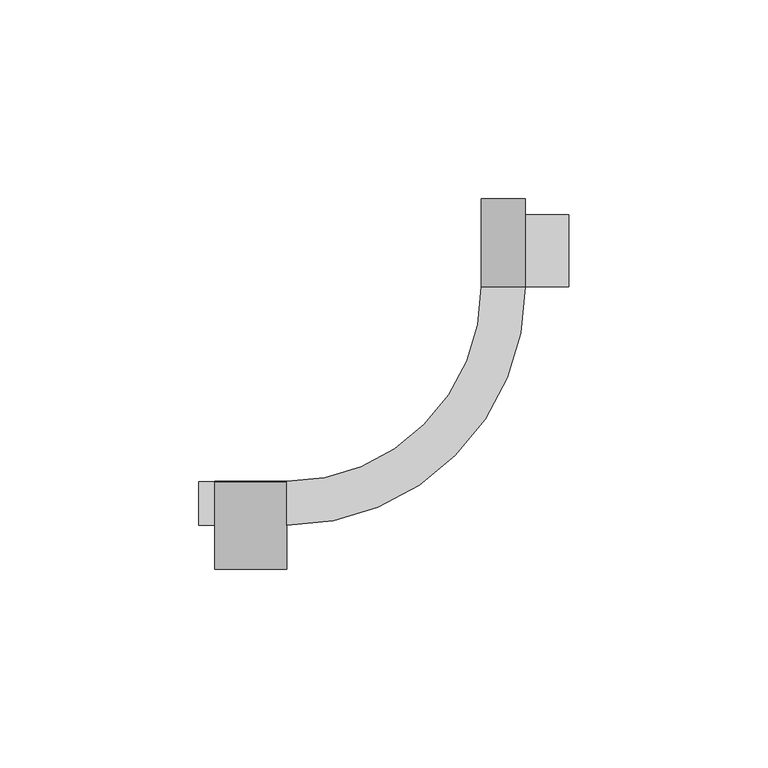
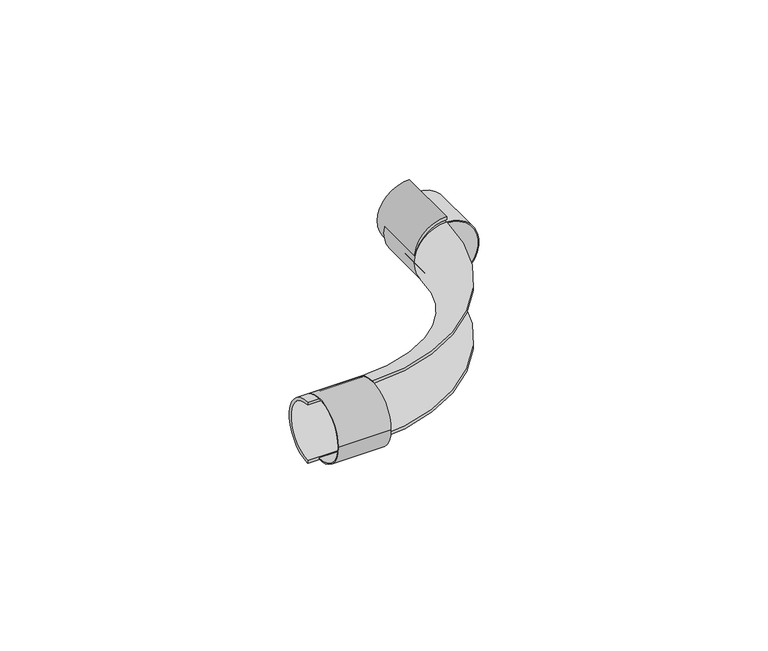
"""IFC4 building model written with IfcOpenShell, lengths in millimetres: pipe fitting geometry, REHAU_RAUTITAN_Pipe bend former sanitary : REHAU_RAUTITAN_Pipe bend former sanitary."""

from ifc_helpers import new_model, si_unit, point, frame, frame_2d, origin, origin_2d, place, context, project, spatial, polyline, circle_curve, ellipse_curve, trimmed, segment, composite_curve, outline, extrude, source, transform, mapped, element, save
from ifc_brep_helpers import plane_surface, cylinder_surface, revolved_surface, advanced_brep


def pipe_fitting_9e2fe441(model_context):
    return source(origin(), model_context, "Body", "SolidModel", [
        advanced_brep(
        [(-60.0, 0.0, 11.0), (-60.0, 0.0, -11.0), (-60.0, 0.0, -10.0), (-60.0, 0.0, 10.0), (0.0, 60.0, 11.0), (0.0, 60.0, 10.0), (0.0, 60.0, -10.0), (0.0, 60.0, -11.0)],
        [
            (0, 1, circle_curve(frame((-60.0, 0.0, 0.0), z_axis=(-1.0, 0.0, 0.0), x_axis=(0.0, 1.0, 0.0)), 11.0)),
            (1, 2),
            (2, 3, circle_curve(frame((-60.0, 0.0, 0.0), z_axis=(1.0, 0.0, 0.0), x_axis=(0.0, 1.0, 0.0)), 10.0)),
            (3, 0),
            (4, 5),
            (5, 6, circle_curve(frame((0.0, 60.0, 0.0), z_axis=(0.0, -1.0, 0.0), x_axis=(-1.0, 0.0, 0.0)), 10.0)),
            (6, 7),
            (7, 4, circle_curve(frame((0.0, 60.0, 0.0), z_axis=(0.0, 1.0, 0.0), x_axis=(-1.0, 0.0, 0.0)), 11.0)),
            (4, 0, circle_curve(frame((-60.0, 60.0, 11.0), z_axis=(0.0, 0.0, -1.0), x_axis=(0.0, -1.0, 0.0)), 60.0)),
            (3, 5, circle_curve(frame((-60.0, 60.0, 10.0), z_axis=(0.0, 0.0, 1.0), x_axis=(0.0, -1.0, 0.0)), 60.0)),
            (6, 2, circle_curve(frame((-60.0, 60.0, -10.0), z_axis=(0.0, 0.0, -1.0), x_axis=(0.0, -1.0, 0.0)), 60.0)),
            (1, 7, circle_curve(frame((-60.0, 60.0, -11.0), z_axis=(0.0, 0.0, 1.0), x_axis=(0.0, -1.0, 0.0)), 60.0)),
        ],
        [
            plane_surface(frame((-60.0, 0.0, 0.0), z_axis=(-1.0, 0.0, 0.0), x_axis=(0.0, 0.0, 1.0))),
            plane_surface(frame((0.0, 60.0, 0.0), z_axis=(0.0, 1.0, 0.0), x_axis=(0.0, 0.0, 1.0))),
            cylinder_surface(frame((-60.0, 60.0, 0.0), z_axis=(0.0, 0.0, 1.0), x_axis=(0.0, -1.0, 0.0)), 60.0),
            revolved_surface(trimmed(ellipse_curve(frame((-60.0, 0.0, 0.0), z_axis=(-1.0, 0.0, 0.0), x_axis=(0.0, 1.0, 0.0)), 11.0, 11.0), [point((-60.0, 0.0, 11.0))], [point((-60.0, 0.0, -11.0))], True, "CARTESIAN"), (-60.0, 60.0, 0.0), (0.0, 0.0, 1.0)),
            revolved_surface(trimmed(ellipse_curve(frame((-60.0, 0.0, 0.0), z_axis=(1.0, 0.0, 0.0), x_axis=(0.0, 1.0, 0.0)), 10.0, 10.0), [point((-60.0, 0.0, -10.0))], [point((-60.0, 0.0, 10.0))], True, "CARTESIAN"), (-60.0, 60.0, 0.0), (0.0, 0.0, 1.0)),
        ],
        [
            (0, [[1, 2, 3, 4]]),
            (1, [[5, 6, 7, 8]]),
            (2, [[9, -4, 10, -5]]),
            (2, [[11, -2, 12, -7]]),
            (3, [[-12, -1, -9, -8]]),
            (4, [[-10, -3, -11, -6]]),
        ],
    ),
        extrude(outline(composite_curve([segment(trimmed(circle_curve(origin_2d(), 11.0), [point((11.0, 0.0))], [point((-11.0, 0.0))], False, "CARTESIAN"), True, "CONTINUOUS"), segment(trimmed(circle_curve(origin_2d(), 11.0), [point((-11.0, 0.0))], [point((11.0, 0.0))], False, "CARTESIAN"), True, "CONTINUOUS")], self_intersect=False), holes=[composite_curve([segment(trimmed(circle_curve(origin_2d(), 10.65), [point((10.65, 0.0))], [point((-10.65, 0.0))], True, "CARTESIAN"), True, "CONTINUOUS"), segment(trimmed(circle_curve(origin_2d(), 10.65), [point((-10.65, 0.0))], [point((10.65, 0.0))], True, "CARTESIAN"), True, "CONTINUOUS")], self_intersect=False)]), frame((-78.0, 0.0, 0.0), z_axis=(1.0, 0.0, 0.0), x_axis=(0.0, 1.0, 0.0)), (0.0, 0.0, 1.0), 18.0),
        extrude(outline(composite_curve([segment(trimmed(circle_curve(origin_2d(), 11.0), [point((-11.0, 0.0))], [point((11.0, 0.0))], False, "CARTESIAN"), True, "CONTINUOUS"), segment(trimmed(circle_curve(origin_2d(), 11.0), [point((11.0, 0.0))], [point((-11.0, 0.0))], False, "CARTESIAN"), True, "CONTINUOUS")], self_intersect=False), holes=[composite_curve([segment(trimmed(circle_curve(origin_2d(), 10.65), [point((-10.65, 0.0))], [point((10.65, 0.0))], True, "CARTESIAN"), True, "CONTINUOUS"), segment(trimmed(circle_curve(origin_2d(), 10.65), [point((10.65, 0.0))], [point((-10.65, 0.0))], True, "CARTESIAN"), True, "CONTINUOUS")], self_intersect=False)]), frame((0.0, 60.0, 0.0), z_axis=(0.0, 1.0, 0.0), x_axis=(0.0, 0.0, 1.0)), (0.0, 0.0, 1.0), 18.0),
        extrude(outline(composite_curve([segment(polyline([(0.0, 10.0), (0.0, 11.0)]), True, "CONTINUOUS"), segment(trimmed(circle_curve(origin_2d(), 11.0), [point((0.0, 11.0))], [point((0.0, -11.0))], False, "CARTESIAN"), True, "CONTINUOUS"), segment(polyline([(0.0, -11.0), (0.0, -10.0)]), True, "CONTINUOUS"), segment(trimmed(circle_curve(origin_2d(), 10.0), [point((0.0, -10.0))], [point((0.0, 10.0))], True, "CARTESIAN"), True, "CONTINUOUS")], self_intersect=False)), frame((-82.0, 0.0, 0.0), z_axis=(1.0, 0.0, 0.0), x_axis=(0.0, 1.0, 0.0)), (0.0, 0.0, 1.0), 22.0),
        extrude(outline(composite_curve([segment(polyline([(12.0015807, 0.0), (13.0015807, 0.0)]), True, "CONTINUOUS"), segment(trimmed(circle_curve(frame_2d((2.0015807, 0.0)), 11.0), [point((13.0015807, 0.0))], [point((-8.9984193, 0.0))], False, "CARTESIAN"), True, "CONTINUOUS"), segment(polyline([(-8.9984193, 0.0), (-7.9984193, 0.0)]), True, "CONTINUOUS"), segment(trimmed(circle_curve(frame_2d((2.0015807, 0.0)), 10.0), [point((-7.9984193, 0.0))], [point((12.0015807, 0.0))], True, "CARTESIAN"), True, "CONTINUOUS")], self_intersect=False)), frame((0.0, 60.0, 0.0), z_axis=(0.0, 1.0, 0.0), x_axis=(0.0, 0.0, 1.0)), (0.0, 0.0, 1.0), 22.0),
    ])


if __name__ == "__main__":
    model = new_model("IFC4")
    model_context = context("Model", 3, world=origin())
    ifc_project = project(units=[si_unit("LENGTHUNIT", "METRE", prefix="MILLI")], contexts=[model_context])
    site = spatial("IfcSite", under=ifc_project)
    building = spatial("IfcBuilding", under=site)
    placement = place(None, origin())
    pipe_fitting_shape = pipe_fitting_9e2fe441(model_context)
    element("IfcPipeFitting", 1, ObjectType="REHAU_RAUTITAN_Pipe bend former sanitary : REHAU_RAUTITAN_Pipe bend former sanitary", at=placement, inside=building, context=model_context, shape_type="MappedRepresentation", body=[
        mapped(pipe_fitting_shape, transform((0.0, 0.0, 0.0), x_axis=(1.0, 0.0, 0.0), y_axis=(0.0, 1.0, 0.0), z_axis=(0.0, 0.0, 1.0))),
    ])
    save(model, "model.ifc")
